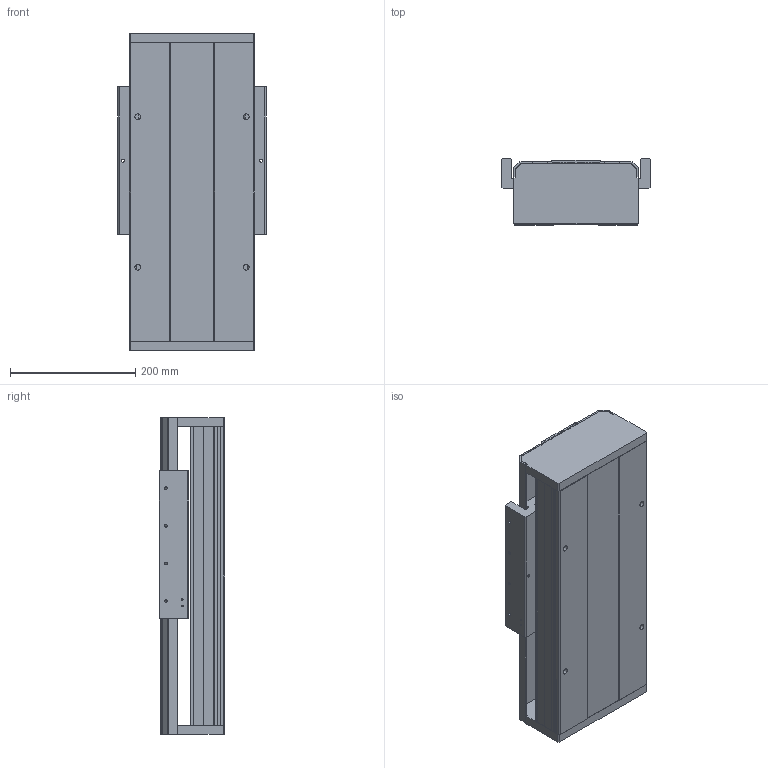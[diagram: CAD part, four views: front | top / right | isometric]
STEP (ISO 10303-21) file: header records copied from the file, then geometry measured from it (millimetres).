
FILE_DESCRIPTION (( 'STEP AP214' ), '1' );
FILE_NAME ('RF20-5-1-S.STEP', '2016-12-06T05:19:03', ( 'baejh' ), ( '' ), 'SwSTEP 2.0', 'SolidWorks 2014', '' );
FILE_SCHEMA (( 'AUTOMOTIVE_DESIGN' ));
Length unit declared in the file: millimetre
Products named in the file (1): RF20-5-1-S
Bounding box: 236 x 105 x 505 mm (x, y, z)
Volume: 4276593.4 mm3; surface area: 1020150.8 mm2
Topology: 5 solids, 5 shells, 410 faces, 1162 edges, 752 vertices
Faces by surface type: plane 242, cylinder 144, cone 24
Entity records: 13684 total; most frequent: CARTESIAN_POINT 2301, ORIENTED_EDGE 2276, DIRECTION 2256, EDGE_CURVE 1138, LINE 842, VECTOR 842, VERTEX_POINT 752, AXIS2_PLACEMENT_3D 707
